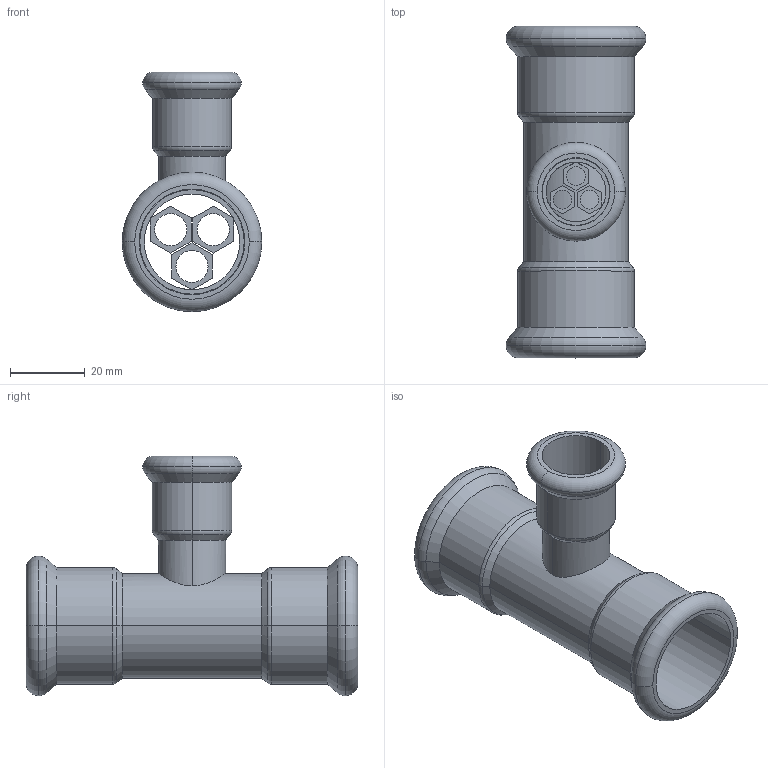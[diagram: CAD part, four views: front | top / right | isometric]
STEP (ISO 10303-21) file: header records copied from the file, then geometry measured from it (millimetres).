
FILE_DESCRIPTION(('OneSpaceDesigner STEP Export'),'2;1');
FILE_NAME('R2715 28x18x28.stp','2010-06-10T 8:59:58',(''),(''),'OneSpace Designer STEP processor for AP214 (Solid Model)','OneSpace Modeling 15.00A 14-Mar-2007 (C) CoCreate Software GmbH','');
FILE_SCHEMA(('AUTOMOTIVE_DESIGN { 1 0 10303 214 1 1 1 1 }'));
Length unit declared in the file: millimetre
Products named in the file (2): R2715_28x18x28
Assembly tree (1 placements, depth 2):
  R2715_28x18x28
    R2715_28x18x28
Bounding box: 37.45 x 89 x 64.22 mm (x, y, z)
Volume: 19306.1 mm3; surface area: 23530.5 mm2
Topology: 1 solids, 1 shells, 174 faces, 429 edges, 274 vertices
Faces by surface type: plane 90, cylinder 54, torus 18, cone 12
Entity records: 5656 total; most frequent: CARTESIAN_POINT 1771, ORIENTED_EDGE 858, DIRECTION 707, EDGE_CURVE 429, VERTEX_POINT 274, VECTOR 263, LINE 263, AXIS2_PLACEMENT_3D 222
